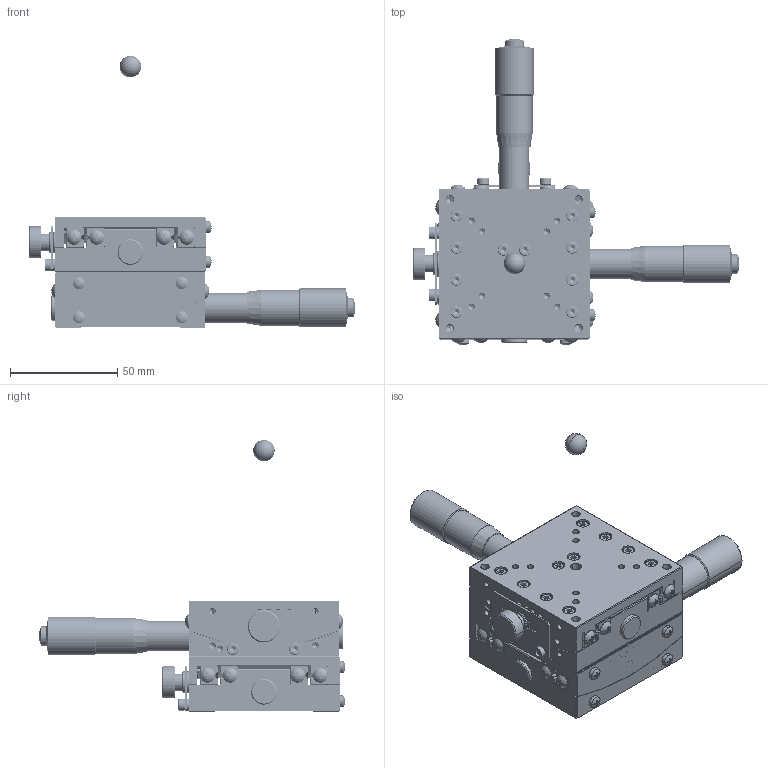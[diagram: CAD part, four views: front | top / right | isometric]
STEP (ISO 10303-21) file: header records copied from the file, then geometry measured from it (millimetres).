
FILE_DESCRIPTION (( 'STEP AP214' ), '1' );
FILE_NAME ('ST07A-C1S.STEP', '2007-01-19T02:25:18', ( ' ' ), ( ' ' ), 'SwSTEP 2.0', 'SolidWorks 2006052', '' );
FILE_SCHEMA (( 'AUTOMOTIVE_DESIGN' ));
Length unit declared in the file: millimetre
Products named in the file (11): 002590-1130(3D)-6; 002600-1011(3D)-2; ST07A-C1T(PL); 002590-1011(3D)-2; 002590-1130(3D)-7; ST07A-C1S-Part-1; MICROMETERHEAD(MHN4-25T)spindle-7; ST07A-C1M(PL); ST07A-C1S; 002600-1020(3D)-2; MICROMETERHEAD(MHN4-25T)spindle-6
Assembly tree (10 placements, depth 3):
  ST07A-C1S
    ST07A-C1M(PL)
      002600-1011(3D)-2
      002600-1020(3D)-2
      MICROMETERHEAD(MHN4-25T)spindle-6
      002590-1130(3D)-6
    ST07A-C1T(PL)
      002590-1130(3D)-7
      MICROMETERHEAD(MHN4-25T)spindle-7
      002590-1011(3D)-2
    ST07A-C1S-Part-1
Bounding box: 152.5 x 142.89 x 127 mm (x, y, z)
Volume: 249431.7 mm3; surface area: 120199.6 mm2
Topology: 8 solids, 84 shells, 3787 faces, 8849 edges, 5184 vertices
Faces by surface type: plane 1599, cylinder 1226, cone 900, sphere 62
Entity records: 113450 total; most frequent: CARTESIAN_POINT 26777, DIRECTION 18948, ORIENTED_EDGE 17200, EDGE_CURVE 8600, AXIS2_PLACEMENT_3D 7301, VERTEX_POINT 5181, VECTOR 4346, LINE 4346
